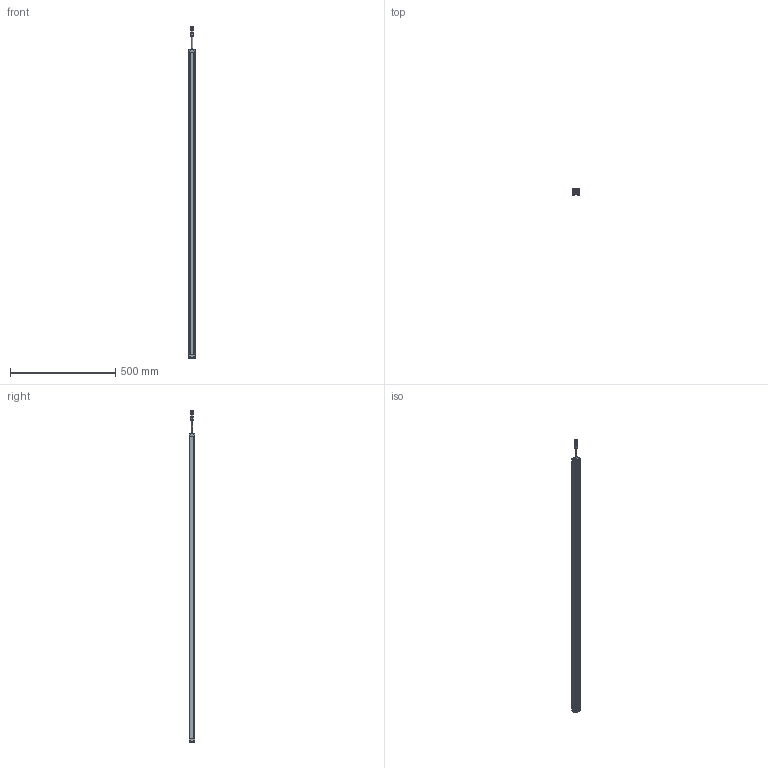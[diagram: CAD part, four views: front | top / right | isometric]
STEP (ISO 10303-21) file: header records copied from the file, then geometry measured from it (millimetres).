
FILE_DESCRIPTION((''),'2;1');
FILE_NAME('SMT1-CGQ_ASM','2025-08-08T08:47:15',('Administrator'),(''),'CREO PARAMETRIC BY PTC INC, 2016510','CREO PARAMETRIC BY PTC INC, 2016510','');
FILE_SCHEMA(('CONFIG_CONTROL_DESIGN'));
Length unit declared in the file: millimetre
Products named in the file (7): SMT1-XINGCAI-V1; SMT1-SDG-V1; SMT1-XDG-V1; M12-CHATOU; ST3X18; CT4-LVGUANGBAN; SMT1-CGQ_ASM
Assembly tree (13 placements, depth 2):
  SMT1-CGQ_ASM
    SMT1-XINGCAI-V1
    SMT1-SDG-V1
    SMT1-XDG-V1
    M12-CHATOU
    ST3X18  x8
    CT4-LVGUANGBAN
Bounding box: 33 x 28.02 x 1579.5 mm (x, y, z)
Volume: 1136405.5 mm3; surface area: 363724.2 mm2
Topology: 13 solids, 13 shells, 712 faces, 1868 edges, 1200 vertices
Faces by surface type: plane 382, cylinder 184, extrusion 86, sphere 32, cone 20, bspline 8
Entity records: 18128 total; most frequent: CARTESIAN_POINT 4347, ORIENTED_EDGE 2916, DIRECTION 2580, EDGE_CURVE 1458, VECTOR 1036, VERTEX_POINT 955, LINE 950, AXIS2_PLACEMENT_3D 772
